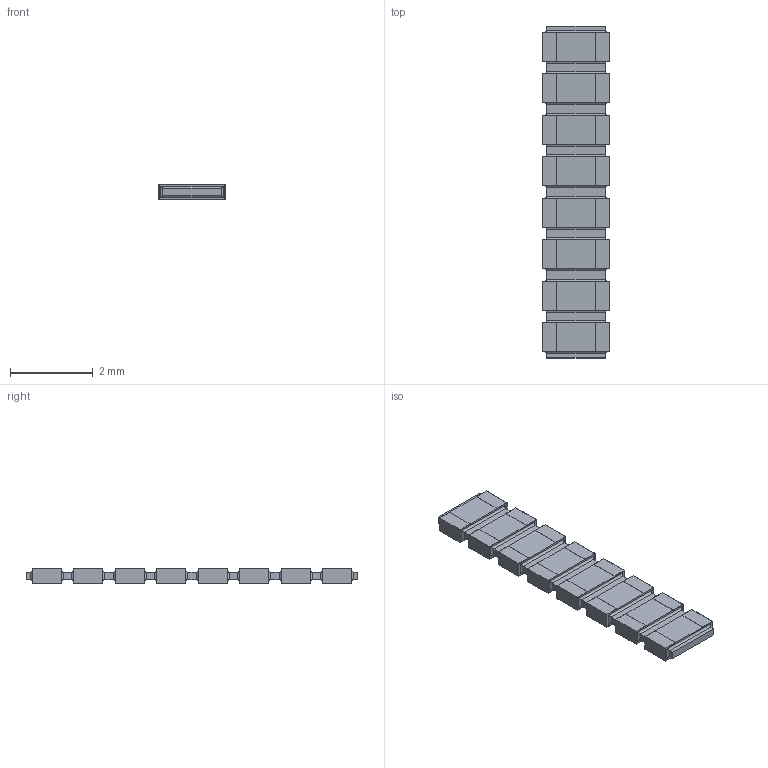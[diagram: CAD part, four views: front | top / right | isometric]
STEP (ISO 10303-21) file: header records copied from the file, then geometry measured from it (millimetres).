
FILE_DESCRIPTION(/* description */ (''),/* implementation_level */ '2;1');
FILE_NAME(/* name */ 'S:\DOCUMENT\AUTOCAD\3D_Modèles\10_3D-pour-VISHAY-COM\PRA\PRAHR100I8_B.stp',/* time_stamp */ '2018-02-02T10:48:32+01:00',/* author */ ('dparmentier'),/* organization */ ('unknown'),/* preprocessor_version */ 'ST-DEVELOPER v17',/* originating_system */ 'Autodesk Inventor 2018',/* authorisation */ '');
FILE_SCHEMA (('AUTOMOTIVE_DESIGN { 1 0 10303 214 3 1 1 }'));
Length unit declared in the file: millimetre
Products named in the file (1): PRAHR100I8_B
Bounding box: 1.6 x 8 x 0.38 mm (x, y, z)
Volume: 4 mm3; surface area: 58.2 mm2
Topology: 17 solids, 17 shells, 310 faces, 716 edges, 456 vertices
Faces by surface type: plane 246, cylinder 64
Entity records: 8609 total; most frequent: CARTESIAN_POINT 1483, ORIENTED_EDGE 1432, DIRECTION 1402, EDGE_CURVE 716, LINE 652, VECTOR 652, VERTEX_POINT 456, AXIS2_PLACEMENT_3D 375
